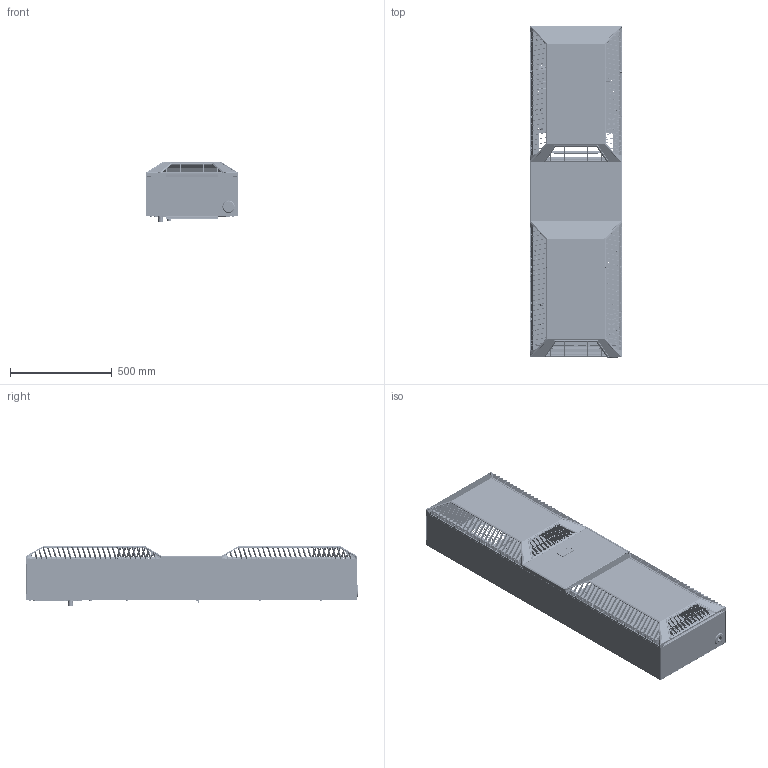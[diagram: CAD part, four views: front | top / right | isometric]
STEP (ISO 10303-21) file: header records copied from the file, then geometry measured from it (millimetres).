
FILE_DESCRIPTION((''),'2;1');
FILE_NAME('KG8562_COMPLETE_ASM_1_ASM','2020-02-18T14:24:50',('briang'),(''),'CREO PARAMETRIC BY PTC INC, 2018500','CREO PARAMETRIC BY PTC INC, 2018500','');
FILE_SCHEMA(('CONFIG_CONTROL_DESIGN'));
Products named in the file (43): KG8562_CABINET_1; KG8562_CABINET-MNF_ASM_1_ASM; KG8562_BASE_1; KG8562_BASE_ASM_1_ASM; KG8562_BOTTOM_STRUT_1; KG8562_CONNECTOR_BRKT_1; KG8562_CONNECTOR_BRKT_MNF_ASM_1_ASM; MC-PB7_62H04C-F_1; MC-7_62-4-PUSH-IN-ASSEMBLY_ASM__ASM; MC-PB5_08H05C-F_1; MC-5-5-PUSH-IN-ASSEMBLY_ASM_1_ASM; KG8562_CONNECTOR_BRKT_ASM_1_ASM; POPNUT_M8_HEX_CLOSED_HEAD1-5_ST; POPNUT_M6_HEX_CL_WITH_LIP_1_5MM; KG8562_SUPPLY_PLATE_1; CABLE_GLAND_M16_1; CABLE_GLAND_M20_METAL_1; KG8540_62-MOUNTING-BRACKET_1; KG8562_CABINET_ASM_1_ASM; CAREL_IR33PLUS_SEIFERT_1; CAREL_IR33_PLUS_SEIFERT_ASM_1_ASM; KG8562_CONTROLLER_ASM_1_ASM; KG8562_INT_ACCESS_PANEL_1; KG8562_INT_ACCESS_PANEL-MNF_ASM_ASM; KG8562_INT_ACCESS_PANEL_ASM_1_ASM; NG4-GRID-SIDE_1; NG4-GRID-SIDE-MIDDLE_1; NG4-GRID-SIDE-BOTTOM_1; NG4-GRID-SIDE-RIGHT_1; NG4-GRID-MID-RIGHT_1; NG4-GRID-SIDE-BTM-RIGHT_1; SCREW_DIN_7985-M4X10-A2_1; SCREW_DIN_965-M4X8_1; NG4-GRID-ASSEMBLY_ASM_1_ASM; KG8562_COVER_1; NG4-FRONT-GRID_1; KG8562_COVER_ASM_1_ASM; KG8562_COVER-BOTTOM_1; KG8562_COVER-BOTTOM_ASM_1_ASM; NG3-SIDE-STRIP_1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
Assembly tree (76 placements, depth 5):
  KG8562_COMPLETE_ASM_1_ASM
    KG8562_CABINET_ASM_1_ASM
      KG8562_CABINET-MNF_ASM_1_ASM
        KG8562_CABINET_1
      KG8562_BASE_ASM_1_ASM
        KG8562_BASE_1
      KG8562_BOTTOM_STRUT_1
      KG8562_CONNECTOR_BRKT_ASM_1_ASM
        KG8562_CONNECTOR_BRKT_MNF_ASM_1_ASM
          KG8562_CONNECTOR_BRKT_1
        MC-7_62-4-PUSH-IN-ASSEMBLY_ASM__ASM
          MC-PB7_62H04C-F_1
        MC-5-5-PUSH-IN-ASSEMBLY_ASM_1_ASM
          MC-PB5_08H05C-F_1
      POPNUT_M8_HEX_CLOSED_HEAD1-5_ST
      POPNUT_M6_HEX_CL_WITH_LIP_1_5MM  x23
      KG8562_SUPPLY_PLATE_1
      CABLE_GLAND_M16_1
      CABLE_GLAND_M20_METAL_1
      KG8540_62-MOUNTING-BRACKET_1  x2
    KG8562_CONTROLLER_ASM_1_ASM
      CAREL_IR33_PLUS_SEIFERT_ASM_1_ASM
        CAREL_IR33PLUS_SEIFERT_1
    KG8562_INT_ACCESS_PANEL_ASM_1_ASM
      KG8562_INT_ACCESS_PANEL-MNF_ASM_ASM
        KG8562_INT_ACCESS_PANEL_1
    KG8562_COVER_ASM_1_ASM
      NG4-GRID-ASSEMBLY_ASM_1_ASM
        NG4-GRID-SIDE_1  x2
        NG4-GRID-SIDE-MIDDLE_1
        NG4-GRID-SIDE-BOTTOM_1
        NG4-GRID-SIDE-RIGHT_1
        NG4-GRID-MID-RIGHT_1
        NG4-GRID-SIDE-BTM-RIGHT_1
        SCREW_DIN_7985-M4X10-A2_1  x6
        SCREW_DIN_965-M4X8_1  x3
      KG8562_COVER_1
      NG4-FRONT-GRID_1
    KG8562_COVER-BOTTOM_ASM_1_ASM
      NG4-GRID-ASSEMBLY_ASM_1_ASM
        NG4-GRID-SIDE_1  x2
        NG4-GRID-SIDE-MIDDLE_1
        NG4-GRID-SIDE-BOTTOM_1
        NG4-GRID-SIDE-RIGHT_1
        NG4-GRID-MID-RIGHT_1
        NG4-GRID-SIDE-BTM-RIGHT_1
        SCREW_DIN_7985-M4X10-A2_1  x6
        SCREW_DIN_965-M4X8_1  x3
      KG8562_COVER-BOTTOM_1
      NG4-FRONT-GRID_1
    KG8562_MID-COVER_ASM_1_ASM
      NG3-SIDE-STRIP_1  x2
      KG8562_MID-COVER_1
Bounding box: 455 x 1632 x 297.73 mm (x, y, z)
Volume: 3665959.1 mm3; surface area: 5785581.3 mm2
Topology: 76 solids, 115 shells, 15094 faces, 43613 edges, 28234 vertices
Faces by surface type: plane 11136, cylinder 2815, cone 613, bspline 264, torus 188, sphere 76, extrusion 2
Entity records: 272594 total; most frequent: CARTESIAN_POINT 66240, ORIENTED_EDGE 45064, DIRECTION 39232, EDGE_CURVE 22534, VECTOR 18142, LINE 18140, VERTEX_POINT 14661, AXIS2_PLACEMENT_3D 10545
